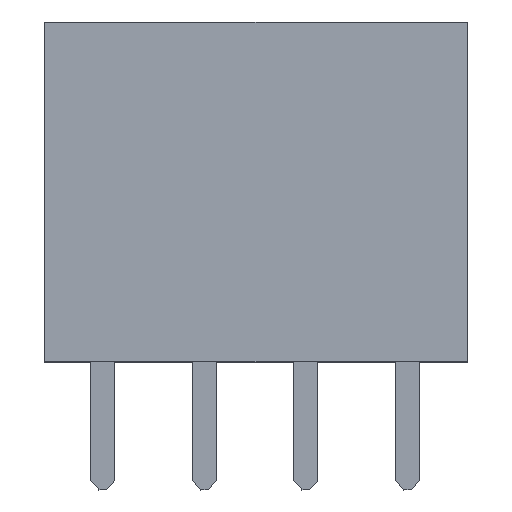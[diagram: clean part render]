
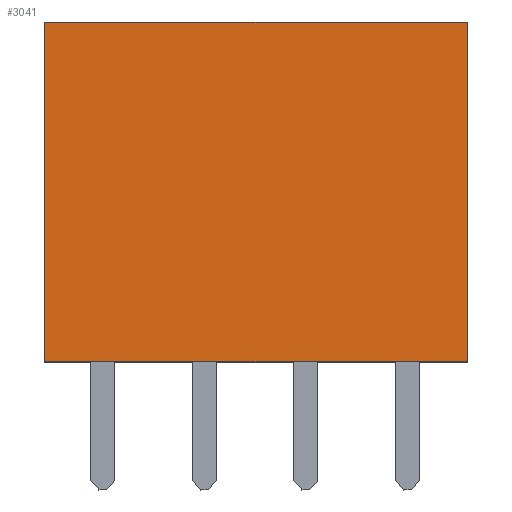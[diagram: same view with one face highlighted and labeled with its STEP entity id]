
A CAD part, top view. The second image highlights one B-rep face of the part: STEP entity #3041.
In plain terms, the highlighted planar face has unit normal (0, 0, 1).
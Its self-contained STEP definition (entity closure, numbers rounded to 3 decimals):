
#573 = AXIS2_PLACEMENT_3D ( 'NONE', #4580, #4577, #4576 ) ;
#796 = VECTOR ( 'NONE', #1561, 1000. ) ;
#1259 = VERTEX_POINT ( 'NONE', #2191 ) ;
#1305 = VERTEX_POINT ( 'NONE', #2124 ) ;
#1347 = VERTEX_POINT ( 'NONE', #2067 ) ;
#1429 = VERTEX_POINT ( 'NONE', #1963 ) ;
#1561 = DIRECTION ( 'NONE',  ( -1., 0., 0. ) ) ;
#1562 = CARTESIAN_POINT ( 'NONE',  ( 30.461, -44.611, 2.5 ) ) ;
#1564 = LINE ( 'NONE', #1562, #796 ) ;
#1963 = CARTESIAN_POINT ( 'NONE',  ( 27.921, -36.111, 2.5 ) ) ;
#2067 = CARTESIAN_POINT ( 'NONE',  ( 17.361, -44.611, 2.5 ) ) ;
#2124 = CARTESIAN_POINT ( 'NONE',  ( 27.921, -44.611, 2.5 ) ) ;
#2191 = CARTESIAN_POINT ( 'NONE',  ( 17.361, -36.111, 2.5 ) ) ;
#2531 = ORIENTED_EDGE ( 'NONE', *, *, #2558, .F. ) ;
#2532 = ORIENTED_EDGE ( 'NONE', *, *, #3499, .T. ) ;
#2534 = ORIENTED_EDGE ( 'NONE', *, *, #3495, .T. ) ;
#2535 = ORIENTED_EDGE ( 'NONE', *, *, #3530, .T. ) ;
#2558 = EDGE_CURVE ( 'NONE', #1305, #1347, #1564, .T. ) ;
#3041 = ADVANCED_FACE ( 'NONE', ( #4594 ), #4590, .F. ) ;
#3390 = EDGE_LOOP ( 'NONE', ( #2535, #2534, #2532, #2531 ) ) ;
#3495 = EDGE_CURVE ( 'NONE', #1429, #1259, #6439, .T. ) ;
#3499 = EDGE_CURVE ( 'NONE', #1259, #1347, #6422, .T. ) ;
#3530 = EDGE_CURVE ( 'NONE', #1305, #1429, #6281, .T. ) ;
#3767 = VECTOR ( 'NONE', #6279, 1000. ) ;
#3798 = VECTOR ( 'NONE', #6418, 1000. ) ;
#3802 = VECTOR ( 'NONE', #6435, 1000. ) ;
#4576 = DIRECTION ( 'NONE',  ( -1., 0., 0. ) ) ;
#4577 = DIRECTION ( 'NONE',  ( 0., 0., -1. ) ) ;
#4580 = CARTESIAN_POINT ( 'NONE',  ( 30.461, -44.611, 2.5 ) ) ;
#4590 = PLANE ( 'NONE',  #573 ) ;
#4594 = FACE_OUTER_BOUND ( 'NONE', #3390, .T. ) ;
#6279 = DIRECTION ( 'NONE',  ( 0., 1., 0. ) ) ;
#6280 = CARTESIAN_POINT ( 'NONE',  ( 27.921, -44.611, 2.5 ) ) ;
#6281 = LINE ( 'NONE', #6280, #3767 ) ;
#6418 = DIRECTION ( 'NONE',  ( 0., -1., 0. ) ) ;
#6419 = CARTESIAN_POINT ( 'NONE',  ( 17.361, -44.611, 2.5 ) ) ;
#6422 = LINE ( 'NONE', #6419, #3798 ) ;
#6435 = DIRECTION ( 'NONE',  ( -1., 0., 0. ) ) ;
#6436 = CARTESIAN_POINT ( 'NONE',  ( 14.821, -36.111, 2.5 ) ) ;
#6439 = LINE ( 'NONE', #6436, #3802 ) ;
